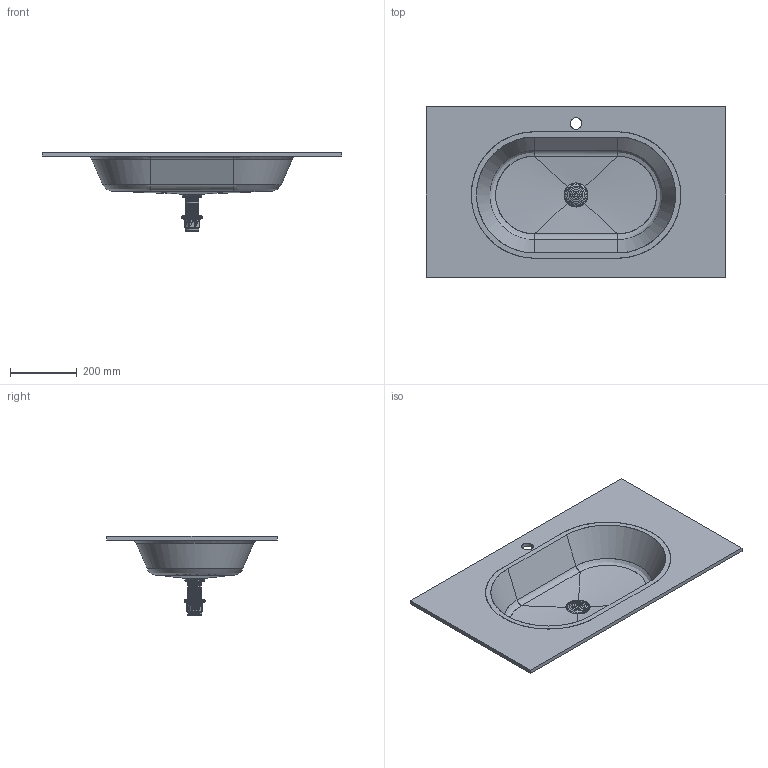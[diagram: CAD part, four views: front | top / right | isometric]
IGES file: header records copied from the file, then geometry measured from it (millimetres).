
Start section: Data from Parasolid IGES Translator 19.0.9, Copyright(c) 2006 Siemens PL M Software. All Rights Reserved.
Global section: file name: noorth-top-H 1,2 D 51,3 W 90_6529.igs; native system: By Siemens PLM Incorporated; preprocessor: XPlus GENERIC/IGES 19.0.9; author: Noname; organization: Noname; date: 20200603.092843; units: metre
Bounding box: 900 x 512 x 240 mm (x, y, z)
Volume: 3016281.2 mm3; surface area: 1257989.3 mm2
Topology: 1 solids, 1 shells, 11680 faces, 35177 edges, 35160 vertices
Faces by surface type: extrusion 11627, bspline 32, revolution 10, plane 8, cylinder 3
Full cylindrical faces by diameter (mm): 34.9 x1
